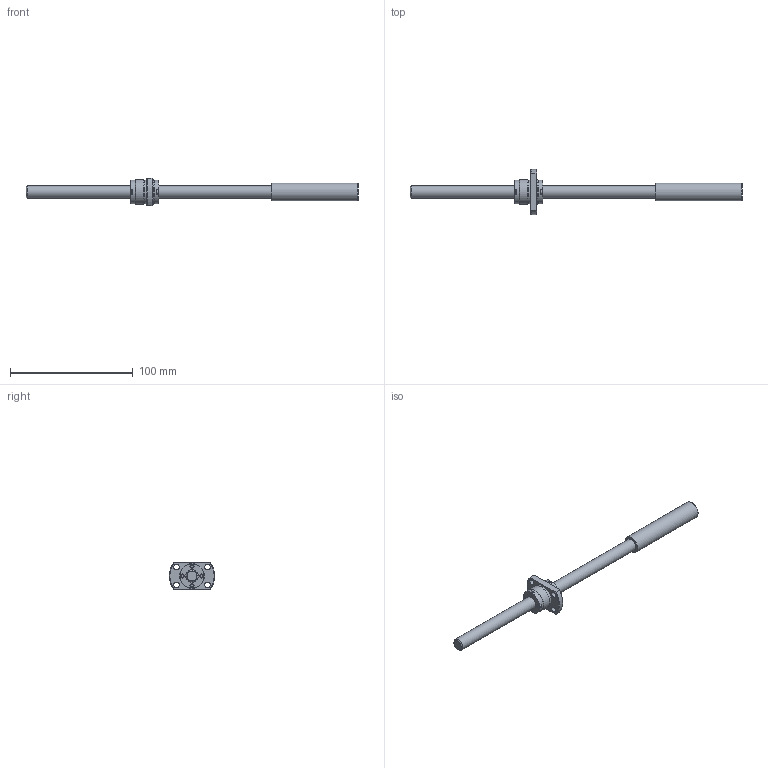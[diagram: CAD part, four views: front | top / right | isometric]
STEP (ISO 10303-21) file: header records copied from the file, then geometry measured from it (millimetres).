
FILE_DESCRIPTION(/* description */ ('STEP AP214'),/* implementation_level */ '2;1');
FILE_NAME(/* name */ 'SRT1020-196R270C7A0X(85None)',/* time_stamp */ '2026-08-06T15:11:47+02:00',/* author */ ('License CC BY-ND 4.0'),/* organization */ ('CADENAS'),/* preprocessor_version */ 'ST-DEVELOPER v20',/* originating_system */ 'PARTsolutions',/* authorisation */ ' ');
FILE_SCHEMA (('AUTOMOTIVE_DESIGN {1 0 10303 214 3 1 1}'));
Length unit declared in the file: millimetre
Products named in the file (3): SRT1020-196R270C7A0X(85None); SRT1020-196R270ACt7None73Shaft; SRT1020Nut
Assembly tree (2 placements, depth 2):
  SRT1020-196R270C7A0X(85None)
    SRT1020-196R270ACt7None73Shaft
    SRT1020Nut
Bounding box: 270 x 37 x 22 mm (x, y, z)
Volume: 33860.6 mm3; surface area: 13807.2 mm2
Topology: 2 solids, 2 shells, 138 faces, 333 edges, 220 vertices
Faces by surface type: plane 99, cylinder 30, cone 9
Full cylindrical faces by diameter (mm): 3 x8, 4.5 x4, 10 x2, 14.2 x1, 19.5 x3, 20 x2
Entity records: 3971 total; most frequent: CARTESIAN_POINT 689, DIRECTION 662, ORIENTED_EDGE 612, EDGE_CURVE 306, AXIS2_PLACEMENT_3D 223, VERTEX_POINT 218, LINE 216, VECTOR 216
